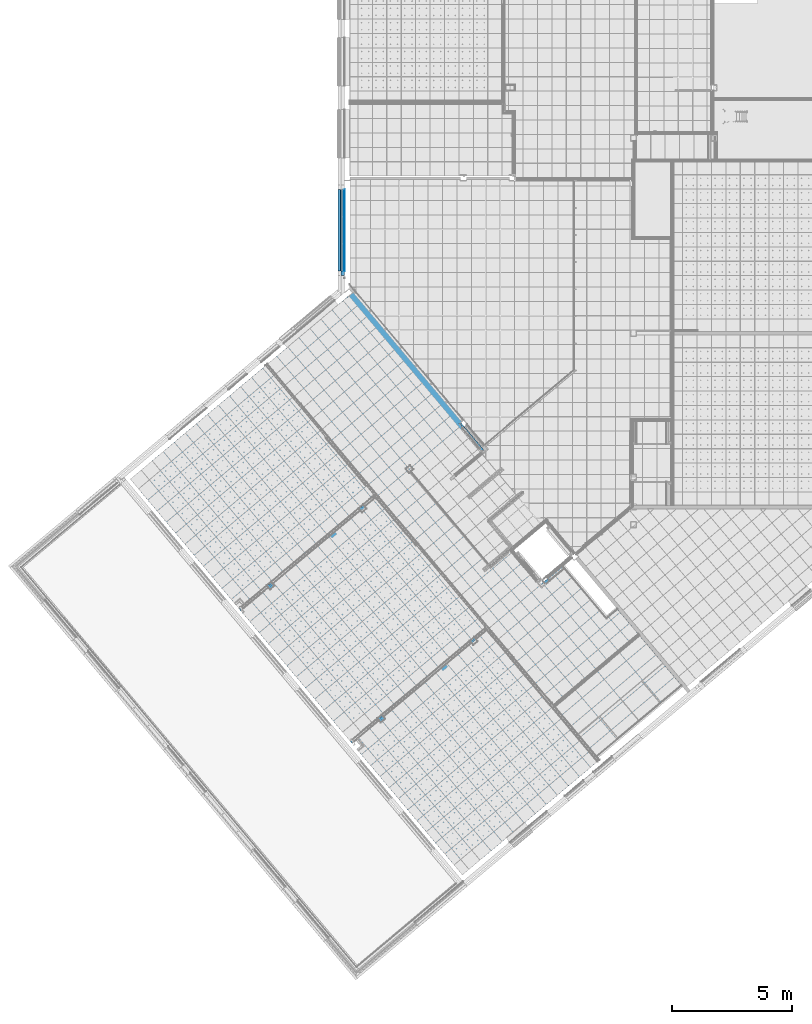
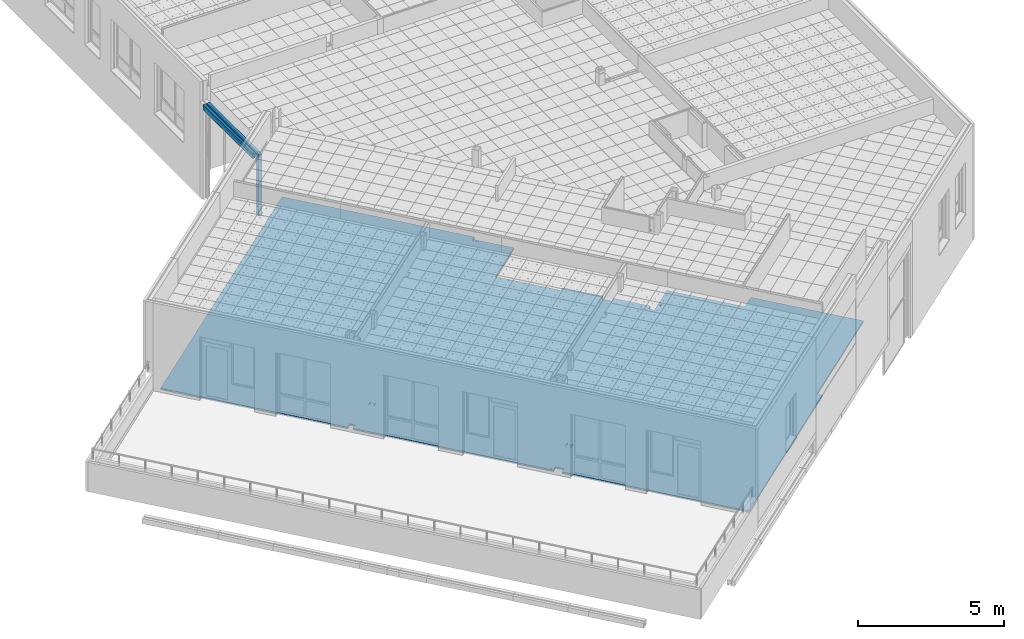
# One storey, part 58 of 321: 7 building element parts, 3 elements without a shape of their own.
"""IFC2X3 building model written with IfcOpenShell, lengths in millimetres."""

from ifc_helpers import new_model, entity, si_unit, converted_unit, derived_unit, money_unit, direction, frame, origin_with_axes, place, context, subcontext, project, spatial, faceted_brep, material, type_object, element, aggregate, save


model = new_model("IFC2X3")

# Units and contexts
model_context = context("Model", 3, precision=0.01, world=origin_with_axes(), true_north=direction((0.0, 1.0)))
plan_context = context("Plan", 3, precision=0.01, world=origin_with_axes(), true_north=direction((0.0, 1.0)))
body_context = subcontext(model_context, "Body", "Model", "MODEL_VIEW")
ifc_project = project(units=[si_unit("LENGTHUNIT", "METRE", prefix="MILLI"), si_unit("AREAUNIT", "SQUARE_METRE"), si_unit("VOLUMEUNIT", "CUBIC_METRE"), converted_unit("PLANEANGLEUNIT", "DEGREE", entity("IfcPlaneAngleMeasure", 0.0174532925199), si_unit("PLANEANGLEUNIT", "RADIAN"), dimensions=[0, 0, 0, 0, 0, 0, 0]), money_unit("EUR"), converted_unit("TIMEUNIT", "Year", entity("IfcTimeMeasure", 31556926.0), si_unit("TIMEUNIT", "SECOND"), dimensions=[0, 0, 1, 0, 0, 0, 0]), si_unit("MASSUNIT", "GRAM", prefix="KILO"), si_unit("THERMODYNAMICTEMPERATUREUNIT", "DEGREE_CELSIUS"), si_unit("LUMINOUSINTENSITYUNIT", "LUMEN"), si_unit("ENERGYUNIT", "JOULE", prefix="MEGA"), derived_unit("THERMALCONDUCTANCEUNIT", [(si_unit("POWERUNIT", "WATT"), 1), (si_unit("LENGTHUNIT", "METRE"), -1), (si_unit("THERMODYNAMICTEMPERATUREUNIT", "KELVIN"), -1)]), derived_unit("SPECIFICHEATCAPACITYUNIT", [(si_unit("ENERGYUNIT", "JOULE"), 1), (si_unit("MASSUNIT", "GRAM", prefix="KILO"), -1), (si_unit("THERMODYNAMICTEMPERATUREUNIT", "KELVIN"), -1)]), derived_unit("MASSDENSITYUNIT", [(si_unit("MASSUNIT", "GRAM", prefix="KILO"), 1), (si_unit("VOLUMEUNIT", "CUBIC_METRE"), -1)])], contexts=[model_context, plan_context])

# Site, building, storey
site_placement = place(None, origin_with_axes())
site = spatial("IfcSite", under=ifc_project, at=site_placement, Name="Fortuinstraat Woensdrecht", CompositionType="ELEMENT")
building_placement = place(site_placement, origin_with_axes())
building = spatial("IfcBuilding", under=site, at=building_placement, Name="IKC Fortuna", CompositionType="ELEMENT")
storey_placement = place(building_placement, frame((0.0, 0.0, 4000.0), z_axis=(0.0, 0.0, 1.0), x_axis=(1.0, 0.0, 0.0)))
storey = spatial("IfcBuildingStorey", under=building, at=storey_placement, Name="01 eerste verdieping", CompositionType="ELEMENT", Elevation=4000.0)

# Covering, building element part
covering_type_1 = type_object("IfcCoveringType", Name="43 Vloerafwerking 90", PredefinedType="FLOORING")
covering_1_placement = place(storey_placement, frame((14022.1121307, 11486.5919573, 1450.0), z_axis=(0.0, 0.0, 1.0), x_axis=(1.0, 0.0, 0.0)))
covering_1 = element("IfcCovering", 1, at=covering_1_placement, inside=storey, type_object=covering_type_1, Name="43_Vloerafwerking_Vloerafwerking", PredefinedType="FLOORING")
ifc_material_1 = material(Name="Cement")
building_element_part_1_placement = place(covering_1_placement, origin_with_axes())
building_element_part_1 = element("IfcBuildingElementPart", 2, at=building_element_part_1_placement, material=ifc_material_1, Name="Cement", context=body_context, shape_type="Brep", body=[
    faceted_brep([(4366.97959641, -5546.62286477, 0.0), (4487.82366703, -5690.63922008, 0.0), (4541.44672741, -5645.64412989, 0.0), (4420.60265679, -5501.62777458, 0.0), (4487.82366703, -5690.63922008, -70.0), (4366.97959641, -5546.62286477, -70.0), (4541.44672741, -5645.64412989, -70.0), (4420.60265679, -5501.62777458, -70.0)], [[[0, 1, 2, 3]], [[4, 1, 0, 5]], [[1, 4, 6, 2]], [[2, 6, 7, 3]], [[5, 0, 3, 7]], [[4, 5, 7, 6]]]),
    faceted_brep([(4556.55223624, -5663.64617431, -70.0), (4556.55223624, -5663.64617431, 0.0), (5364.97444088, -6627.08624103, 0.0), (5364.97444088, -6627.08624103, -70.0), (4493.35362032, -5716.67610961, 0.0), (4493.35362032, -5716.67610961, -70.0), (4342.29853204, -5536.65566548, 0.0), (4520.4038651, -5387.2075462, 0.0), (0.0, 0.0, 0.0), (-115.133644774, -96.6085988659, 0.0), (-111.204100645, -101.291647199, 0.0), (-119.630589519, -108.362310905, 0.0), (-123.560133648, -103.679262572, 0.0), (-267.576488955, -224.523333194, 0.0), (-263.646944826, -229.206381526, 0.0), (-272.0734337, -236.277045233, 0.0), (-276.002977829, -231.5939969, 0.0), (-9345.74225672, -7842.00888069, 0.0), (-4952.60954381, -13077.540574, 0.0), (-4788.67602772, -12939.9840212, 0.0), (-4661.40462621, -13091.6601711, 0.0), (-4825.33814229, -13229.216724, 0.0), (-4817.3035465, -13238.7919824, 0.0), (-4763.68043546, -13193.7968497, 0.0), (-4756.60977175, -13202.2233386, 0.0), (-4810.2328828, -13247.2184713, 0.0), (-4689.38881217, -13391.2348266, 0.0), (-4635.76570113, -13346.2396939, 0.0), (-4628.69503743, -13354.6661828, 0.0), (-4682.31814847, -13399.6613155, 0.0), (-189.035928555, -18754.5465436, 0.0), (-135.412817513, -18709.5514109, 0.0), (-128.342153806, -18717.9778998, 0.0), (-181.965264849, -18762.9730325, 0.0), (-116.918901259, -18840.49227, 0.0), (47.0158051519, -18702.9347183, 0.0), (244.352145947, -18938.1110114, 0.0), (80.4174395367, -19075.6685631, 0.0), (4474.19135154, -24311.9644077, 0.0), (10139.0867266, -19558.5527879, 0.0), (10010.5292046, -19405.3438993, 0.0), (13576.4751294, -16413.159989, 0.0), (10929.79712, -13258.9720167, 0.0), (10470.1704573, -13644.6445863, 0.0), (8638.22574419, -11461.41793, 0.0), (7952.45977333, -12036.8439131, 0.0), (8012.75382194, -12108.6995621, 0.0), (8020.38625934, -12114.0438523, 0.0), (8029.66828911, -12114.8559247, 0.0), (8038.11279889, -12110.9181851, 0.0), (8105.90773211, -12054.0314816, 0.0), (8112.97839581, -12062.4579705, 0.0), (7944.44861833, -12203.8712446, 0.0), (7937.37795462, -12195.4447558, 0.0), (8005.17288784, -12138.5580523, 0.0), (8010.51717804, -12130.9256149, 0.0), (8011.32925042, -12121.6435851, 0.0), (8007.39151084, -12113.1990754, 0.0), (7947.09746227, -12041.3434264, 0.0), (7680.670161, -12264.9024804, 0.0), (7551.79127751, -12111.3105558, 0.0), (7689.67361911, -11995.613522, 0.0), (6814.19684189, -10952.2610348, 0.0), (6676.31450029, -11067.9580686, 0.0), (6435.16219235, -10780.563206, 0.0), (6573.04418232, -10664.8664863, 0.0), (5627.00280012, -9537.41827036, 0.0), (5496.77526721, -9646.6921452, 0.0), (4019.73144893, -7886.41986835, 0.0), (4012.07671006, -7892.84295692, 0.0), (3947.79794909, -7816.23851261, 0.0), (3955.45268797, -7809.81542404, 0.0), (403.582429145, -9119.43715145, 0.0), (471.377362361, -9062.55044799, 0.0), (478.448026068, -9070.97693687, 0.0), (309.918248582, -9212.390211, 0.0), (302.847584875, -9203.96372213, 0.0), (370.642518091, -9147.07701867, 0.0), (375.986808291, -9139.44458127, 0.0), (376.798880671, -9130.16255149, 0.0), (372.861141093, -9121.71804172, 0.0), (275.15742442, -9005.27928636, 0.0), (267.524987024, -8999.93499616, 0.0), (258.242957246, -8999.12292378, 0.0), (249.79844747, -9003.06066336, 0.0), (182.003514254, -9059.94736682, 0.0), (174.932850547, -9051.52087794, 0.0), (343.462628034, -8910.10760381, 0.0), (350.53329174, -8918.53409269, 0.0), (282.738358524, -8975.42079615, 0.0), (277.394068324, -8983.05323354, 0.0), (276.581995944, -8992.33526332, 0.0), (280.519735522, -9000.7797731, 0.0), (378.223452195, -9117.21852845, 0.0), (385.855889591, -9122.56281865, 0.0), (395.137919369, -9123.37489103, 0.0), (-3426.9855386, -12333.6653204, 0.0), (-3359.19060538, -12276.7786169, 0.0), (-3352.11994168, -12285.2051058, 0.0), (-3520.64971916, -12426.6183799, 0.0), (-3527.72038287, -12418.1918911, 0.0), (-3459.92544965, -12361.3051876, 0.0), (-3454.58115945, -12353.6727502, 0.0), (-3453.76908707, -12344.3907204, 0.0), (-3457.70682665, -12335.9462107, 0.0), (-3555.41054332, -12219.5074553, 0.0), (-3563.04298072, -12214.1631651, 0.0), (-3572.3250105, -12213.3510927, 0.0), (-3580.76952027, -12217.2888323, 0.0), (-3648.56445349, -12274.1755358, 0.0), (-3655.6351172, -12265.7490469, 0.0), (-3487.10533971, -12124.3357727, 0.0), (-3480.034676, -12132.7622616, 0.0), (-3547.82960922, -12189.6489651, 0.0), (-3553.17389942, -12197.2814025, 0.0), (-3553.9859718, -12206.5634323, 0.0), (-3550.04823222, -12215.007942, 0.0), (-3452.34451555, -12331.4466974, 0.0), (-3444.71207815, -12336.7909876, 0.0), (-3435.43004837, -12337.60306, 0.0), (5030.48470023, -14634.6178134, 0.0), (5098.27963345, -14577.7311099, 0.0), (5105.35029715, -14586.1575988, 0.0), (4936.82051967, -14727.5708729, 0.0), (4929.74985596, -14719.1443841, 0.0), (4997.54478918, -14662.2576806, 0.0), (5002.88907938, -14654.6252432, 0.0), (5003.70115176, -14645.3432134, 0.0), (4999.76341218, -14636.8987037, 0.0), (4902.05969551, -14520.4599483, 0.0), (4894.42725811, -14515.1156581, 0.0), (4885.14522833, -14514.3035857, 0.0), (4876.70071856, -14518.2413253, 0.0), (4808.90578534, -14575.1280288, 0.0), (4801.83512163, -14566.7015399, 0.0), (4970.36489912, -14425.2882658, 0.0), (4977.43556283, -14433.7147546, 0.0), (4909.64062961, -14490.6014581, 0.0), (4904.29633941, -14498.2338955, 0.0), (4903.48426703, -14507.5159253, 0.0), (4907.42200661, -14515.960435, 0.0), (5005.12572328, -14632.3991904, 0.0), (5012.75816068, -14637.7434806, 0.0), (5022.04019045, -14638.555553, 0.0), (1182.01503298, -17863.8672918, 0.0), (1249.80996619, -17806.9805883, 0.0), (1256.8806299, -17815.4070772, 0.0), (1088.35085241, -17956.8203513, 0.0), (1081.28018871, -17948.3938625, 0.0), (1149.07512192, -17891.507159, 0.0), (1154.41941212, -17883.8747216, 0.0), (1155.2314845, -17874.5926918, 0.0), (1151.29374492, -17866.1481821, 0.0), (1053.59002825, -17749.7094267, 0.0), (1045.95759086, -17744.3651365, 0.0), (1036.67556108, -17743.5530641, 0.0), (1028.2310513, -17747.4908037, 0.0), (960.436118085, -17804.3775072, 0.0), (953.365454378, -17795.9510183, 0.0), (1121.89523186, -17654.5377442, 0.0), (1128.96589557, -17662.964233, 0.0), (1061.17096236, -17719.8509365, 0.0), (1055.82667216, -17727.4833739, 0.0), (1055.01459978, -17736.7654037, 0.0), (1058.95233935, -17745.2099134, 0.0), (1156.65605603, -17861.6486688, 0.0), (1164.28849342, -17866.992959, 0.0), (1173.5705232, -17867.8050314, 0.0), (3955.45268797, -7809.81542404, -70.0), (3947.79794909, -7816.23851261, -70.0), (4012.07671006, -7892.84295692, -70.0), (4019.73144893, -7886.41986835, -70.0), (5496.77526721, -9646.6921452, -70.0), (5627.00280012, -9537.41827036, -70.0), (6573.04418232, -10664.8664863, -70.0), (6435.16219235, -10780.563206, -70.0), (6676.31450029, -11067.9580686, -70.0), (6814.19684189, -10952.2610348, -70.0), (7689.67361911, -11995.613522, -70.0), (7551.79127751, -12111.3105558, -70.0), (7680.670161, -12264.9024804, -70.0), (7947.09746227, -12041.3434264, -70.0), (8007.39151084, -12113.1990754, -70.0), (8011.32925042, -12121.6435851, -70.0), (8010.51717804, -12130.9256149, -70.0), (8005.17288784, -12138.5580523, -70.0), (7937.37795462, -12195.4447558, -70.0), (7944.44861833, -12203.8712446, -70.0), (8112.97839581, -12062.4579705, -70.0), (8105.90773211, -12054.0314816, -70.0), (8038.11279889, -12110.9181851, -70.0), (8029.66828911, -12114.8559247, -70.0), (8020.38625934, -12114.0438523, -70.0), (8012.75382194, -12108.6995621, -70.0), (7952.45977333, -12036.8439131, -70.0), (8638.22574419, -11461.41793, -70.0), (10470.1704573, -13644.6445863, -70.0), (10929.79712, -13258.9720167, -70.0), (13576.4751294, -16413.159989, -70.0), (10010.5292046, -19405.3438993, -70.0), (10139.0867266, -19558.5527879, -70.0), (4474.19135154, -24311.9644077, -70.0), (80.4174395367, -19075.6685631, -70.0), (244.352145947, -18938.1110114, -70.0), (47.0158051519, -18702.9347183, -70.0), (-116.918901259, -18840.49227, -70.0), (-181.965264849, -18762.9730325, -70.0), (-128.342153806, -18717.9778998, -70.0), (-135.412817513, -18709.5514109, -70.0), (-189.035928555, -18754.5465436, -70.0), (-4682.31814847, -13399.6613155, -70.0), (-4628.69503743, -13354.6661828, -70.0), (-4635.76570113, -13346.2396939, -70.0), (-4689.38881217, -13391.2348266, -70.0), (-4810.2328828, -13247.2184713, -70.0), (-4756.60977175, -13202.2233386, -70.0), (-4763.68043546, -13193.7968497, -70.0), (-4817.3035465, -13238.7919824, -70.0), (-4825.33814229, -13229.216724, -70.0), (-4661.40462621, -13091.6601711, -70.0), (-4788.67602772, -12939.9840212, -70.0), (-4952.60954381, -13077.540574, -70.0), (-9345.74225672, -7842.00888069, -70.0), (-276.002977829, -231.5939969, -70.0), (-272.0734337, -236.277045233, -70.0), (-263.646944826, -229.206381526, -70.0), (-267.576488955, -224.523333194, -70.0), (-123.560133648, -103.679262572, -70.0), (-119.630589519, -108.362310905, -70.0), (-111.204100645, -101.291647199, -70.0), (-115.133644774, -96.6085988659, -70.0), (0.0, 0.0, -70.0), (4520.4038651, -5387.2075462, -70.0), (4342.29853204, -5536.65566548, -70.0), (302.847584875, -9203.96372213, -70.0), (309.918248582, -9212.390211, -70.0), (478.448026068, -9070.97693687, -70.0), (471.377362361, -9062.55044799, -70.0), (403.582429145, -9119.43715145, -70.0), (395.137919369, -9123.37489103, -70.0), (385.855889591, -9122.56281865, -70.0), (378.223452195, -9117.21852845, -70.0), (280.519735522, -9000.7797731, -70.0), (276.581995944, -8992.33526332, -70.0), (277.394068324, -8983.05323354, -70.0), (282.738358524, -8975.42079615, -70.0), (350.53329174, -8918.53409269, -70.0), (343.462628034, -8910.10760381, -70.0), (174.932850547, -9051.52087794, -70.0), (182.003514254, -9059.94736682, -70.0), (249.79844747, -9003.06066336, -70.0), (258.242957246, -8999.12292378, -70.0), (267.524987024, -8999.93499616, -70.0), (275.15742442, -9005.27928636, -70.0), (372.861141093, -9121.71804172, -70.0), (376.798880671, -9130.16255149, -70.0), (375.986808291, -9139.44458127, -70.0), (370.642518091, -9147.07701867, -70.0), (-3527.72038287, -12418.1918911, -70.0), (-3520.64971916, -12426.6183799, -70.0), (-3352.11994168, -12285.2051058, -70.0), (-3359.19060538, -12276.7786169, -70.0), (-3426.9855386, -12333.6653204, -70.0), (-3435.43004837, -12337.60306, -70.0), (-3444.71207815, -12336.7909876, -70.0), (-3452.34451555, -12331.4466974, -70.0), (-3550.04823222, -12215.007942, -70.0), (-3553.9859718, -12206.5634323, -70.0), (-3553.17389942, -12197.2814025, -70.0), (-3547.82960922, -12189.6489651, -70.0), (-3480.034676, -12132.7622616, -70.0), (-3487.10533971, -12124.3357727, -70.0), (-3655.6351172, -12265.7490469, -70.0), (-3648.56445349, -12274.1755358, -70.0), (-3580.76952027, -12217.2888323, -70.0), (-3572.3250105, -12213.3510927, -70.0), (-3563.04298072, -12214.1631651, -70.0), (-3555.41054332, -12219.5074553, -70.0), (-3457.70682665, -12335.9462107, -70.0), (-3453.76908707, -12344.3907204, -70.0), (-3454.58115945, -12353.6727502, -70.0), (-3459.92544965, -12361.3051876, -70.0), (4929.74985596, -14719.1443841, -70.0), (4936.82051967, -14727.5708729, -70.0), (5105.35029715, -14586.1575988, -70.0), (5098.27963345, -14577.7311099, -70.0), (5030.48470023, -14634.6178134, -70.0), (5022.04019045, -14638.555553, -70.0), (5012.75816068, -14637.7434806, -70.0), (5005.12572328, -14632.3991904, -70.0), (4907.42200661, -14515.960435, -70.0), (4903.48426703, -14507.5159253, -70.0), (4904.29633941, -14498.2338955, -70.0), (4909.64062961, -14490.6014581, -70.0), (4977.43556283, -14433.7147546, -70.0), (4970.36489912, -14425.2882658, -70.0), (4801.83512163, -14566.7015399, -70.0), (4808.90578534, -14575.1280288, -70.0), (4876.70071856, -14518.2413253, -70.0), (4885.14522833, -14514.3035857, -70.0), (4894.42725811, -14515.1156581, -70.0), (4902.05969551, -14520.4599483, -70.0), (4999.76341218, -14636.8987037, -70.0), (5003.70115176, -14645.3432134, -70.0), (5002.88907938, -14654.6252432, -70.0), (4997.54478918, -14662.2576806, -70.0), (1081.28018871, -17948.3938625, -70.0), (1088.35085241, -17956.8203513, -70.0), (1256.8806299, -17815.4070772, -70.0), (1249.80996619, -17806.9805883, -70.0), (1182.01503298, -17863.8672918, -70.0), (1173.5705232, -17867.8050314, -70.0), (1164.28849342, -17866.992959, -70.0), (1156.65605603, -17861.6486688, -70.0), (1058.95233935, -17745.2099134, -70.0), (1055.01459978, -17736.7654037, -70.0), (1055.82667216, -17727.4833739, -70.0), (1061.17096236, -17719.8509365, -70.0), (1128.96589557, -17662.964233, -70.0), (1121.89523186, -17654.5377442, -70.0), (953.365454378, -17795.9510183, -70.0), (960.436118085, -17804.3775072, -70.0), (1028.2310513, -17747.4908037, -70.0), (1036.67556108, -17743.5530641, -70.0), (1045.95759086, -17744.3651365, -70.0), (1053.59002825, -17749.7094267, -70.0), (1151.29374492, -17866.1481821, -70.0), (1155.2314845, -17874.5926918, -70.0), (1154.41941212, -17883.8747216, -70.0), (1149.07512192, -17891.507159, -70.0)], [[[0, 1, 2, 3]], [[4, 1, 0, 5]], [[6, 7, 8, 9, 10, 11, 12, 13, 14, 15, 16, 17, 18, 19, 20, 21, 22, 23, 24, 25, 26, 27, 28, 29, 30, 31, 32, 33, 34, 35, 36, 37, 38, 39, 40, 41, 42, 43, 44, 45, 46, 47, 48, 49, 50, 51, 52, 53, 54, 55, 56, 57, 58, 59, 60, 61, 62, 63, 64, 65, 66, 67, 68, 69, 70, 71, 2, 1, 4], [72, 73, 74, 75, 76, 77, 78, 79, 80, 81, 82, 83, 84, 85, 86, 87, 88, 89, 90, 91, 92, 93, 94, 95], [96, 97, 98, 99, 100, 101, 102, 103, 104, 105, 106, 107, 108, 109, 110, 111, 112, 113, 114, 115, 116, 117, 118, 119], [120, 121, 122, 123, 124, 125, 126, 127, 128, 129, 130, 131, 132, 133, 134, 135, 136, 137, 138, 139, 140, 141, 142, 143], [144, 145, 146, 147, 148, 149, 150, 151, 152, 153, 154, 155, 156, 157, 158, 159, 160, 161, 162, 163, 164, 165, 166, 167]], [[2, 71, 168, 3]], [[5, 0, 3, 168, 169, 170, 171, 172, 173, 174, 175, 176, 177, 178, 179, 180, 181, 182, 183, 184, 185, 186, 187, 188, 189, 190, 191, 192, 193, 194, 195, 196, 197, 198, 199, 200, 201, 202, 203, 204, 205, 206, 207, 208, 209, 210, 211, 212, 213, 214, 215, 216, 217, 218, 219, 220, 221, 222, 223, 224, 225, 226, 227, 228, 229, 230, 231, 232, 233], [234, 235, 236, 237, 238, 239, 240, 241, 242, 243, 244, 245, 246, 247, 248, 249, 250, 251, 252, 253, 254, 255, 256, 257], [258, 259, 260, 261, 262, 263, 264, 265, 266, 267, 268, 269, 270, 271, 272, 273, 274, 275, 276, 277, 278, 279, 280, 281], [282, 283, 284, 285, 286, 287, 288, 289, 290, 291, 292, 293, 294, 295, 296, 297, 298, 299, 300, 301, 302, 303, 304, 305], [306, 307, 308, 309, 310, 311, 312, 313, 314, 315, 316, 317, 318, 319, 320, 321, 322, 323, 324, 325, 326, 327, 328, 329]], [[6, 4, 5, 233]], [[232, 7, 6, 233]], [[7, 232, 231, 8]], [[230, 9, 8, 231]], [[10, 9, 230, 229]], [[11, 10, 229, 228]], [[12, 11, 228, 227]], [[12, 227, 226, 13]], [[14, 13, 226, 225]], [[15, 14, 225, 224]], [[16, 15, 224, 223]], [[16, 223, 222, 17]], [[221, 18, 17, 222]], [[220, 19, 18, 221]], [[219, 20, 19, 220]], [[218, 21, 20, 219]], [[217, 22, 21, 218]], [[23, 22, 217, 216]], [[24, 23, 216, 215]], [[25, 24, 215, 214]], [[213, 26, 25, 214]], [[27, 26, 213, 212]], [[28, 27, 212, 211]], [[29, 28, 211, 210]], [[209, 30, 29, 210]], [[31, 30, 209, 208]], [[32, 31, 208, 207]], [[33, 32, 207, 206]], [[33, 206, 205, 34]], [[204, 35, 34, 205]], [[203, 36, 35, 204]], [[202, 37, 36, 203]], [[201, 38, 37, 202]], [[200, 39, 38, 201]], [[199, 40, 39, 200]], [[198, 41, 40, 199]], [[197, 42, 41, 198]], [[196, 43, 42, 197]], [[195, 44, 43, 196]], [[194, 45, 44, 195]], [[46, 45, 194, 193]], [[47, 46, 193, 192]], [[48, 47, 192, 191]], [[49, 48, 191, 190]], [[50, 49, 190, 189]], [[51, 50, 189, 188]], [[52, 51, 188, 187]], [[53, 52, 187, 186]], [[54, 53, 186, 185]], [[55, 54, 185, 184]], [[56, 55, 184, 183]], [[57, 56, 183, 182]], [[58, 57, 182, 181]], [[58, 181, 180, 59]], [[179, 60, 59, 180]], [[178, 61, 60, 179]], [[177, 62, 61, 178]], [[176, 63, 62, 177]], [[175, 64, 63, 176]], [[174, 65, 64, 175]], [[173, 66, 65, 174]], [[172, 67, 66, 173]], [[172, 171, 68, 67]], [[170, 69, 68, 171]], [[169, 70, 69, 170]], [[169, 168, 71, 70]], [[73, 72, 238, 237]], [[74, 73, 237, 236]], [[75, 74, 236, 235]], [[76, 75, 235, 234]], [[77, 76, 234, 257]], [[78, 77, 257, 256]], [[79, 78, 256, 255]], [[80, 79, 255, 254]], [[81, 80, 254, 253]], [[82, 81, 253, 252]], [[83, 82, 252, 251]], [[84, 83, 251, 250]], [[85, 84, 250, 249]], [[86, 85, 249, 248]], [[87, 86, 248, 247]], [[88, 87, 247, 246]], [[89, 88, 246, 245]], [[90, 89, 245, 244]], [[91, 90, 244, 243]], [[92, 91, 243, 242]], [[93, 92, 242, 241]], [[94, 93, 241, 240]], [[95, 94, 240, 239]], [[72, 95, 239, 238]], [[97, 96, 262, 261]], [[98, 97, 261, 260]], [[99, 98, 260, 259]], [[100, 99, 259, 258]], [[101, 100, 258, 281]], [[102, 101, 281, 280]], [[103, 102, 280, 279]], [[104, 103, 279, 278]], [[105, 104, 278, 277]], [[106, 105, 277, 276]], [[107, 106, 276, 275]], [[108, 107, 275, 274]], [[109, 108, 274, 273]], [[110, 109, 273, 272]], [[111, 110, 272, 271]], [[112, 111, 271, 270]], [[113, 112, 270, 269]], [[114, 113, 269, 268]], [[115, 114, 268, 267]], [[116, 115, 267, 266]], [[117, 116, 266, 265]], [[118, 117, 265, 264]], [[119, 118, 264, 263]], [[96, 119, 263, 262]], [[121, 120, 286, 285]], [[122, 121, 285, 284]], [[123, 122, 284, 283]], [[124, 123, 283, 282]], [[125, 124, 282, 305]], [[126, 125, 305, 304]], [[127, 126, 304, 303]], [[128, 127, 303, 302]], [[129, 128, 302, 301]], [[130, 129, 301, 300]], [[131, 130, 300, 299]], [[132, 131, 299, 298]], [[133, 132, 298, 297]], [[134, 133, 297, 296]], [[135, 134, 296, 295]], [[136, 135, 295, 294]], [[137, 136, 294, 293]], [[138, 137, 293, 292]], [[139, 138, 292, 291]], [[140, 139, 291, 290]], [[141, 140, 290, 289]], [[142, 141, 289, 288]], [[143, 142, 288, 287]], [[120, 143, 287, 286]], [[145, 144, 310, 309]], [[146, 145, 309, 308]], [[147, 146, 308, 307]], [[148, 147, 307, 306]], [[149, 148, 306, 329]], [[150, 149, 329, 328]], [[151, 150, 328, 327]], [[152, 151, 327, 326]], [[153, 152, 326, 325]], [[154, 153, 325, 324]], [[155, 154, 324, 323]], [[156, 155, 323, 322]], [[157, 156, 322, 321]], [[158, 157, 321, 320]], [[159, 158, 320, 319]], [[160, 159, 319, 318]], [[161, 160, 318, 317]], [[162, 161, 317, 316]], [[163, 162, 316, 315]], [[164, 163, 315, 314]], [[165, 164, 314, 313]], [[166, 165, 313, 312]], [[167, 166, 312, 311]], [[144, 167, 311, 310]]]),
])
aggregate(covering_1, [building_element_part_1])

# Covering, building element parts
covering_type_2 = type_object("IfcCoveringType", Name="41 Latei MW rollaag vlies 280 x 224", PredefinedType="NOTDEFINED")
covering_2_placement = place(storey_placement, frame((13455.4349765, 12302.41408, 2800.0), z_axis=(0.0, 0.0, 1.0), x_axis=(0.0, 1.0, 0.0)))
covering_2 = element("IfcCovering", 3, at=covering_2_placement, inside=storey, type_object=covering_type_2, Name="41_Afwerking_Latei + rollaag", PredefinedType="NOTDEFINED")
ifc_material_2 = material(Name="Metaal - Staal C")
building_element_part_2_placement = place(covering_2_placement, origin_with_axes())
building_element_part_2 = element("IfcBuildingElementPart", 4, at=building_element_part_2_placement, material=ifc_material_2, Name="Metaal - Staal C", context=body_context, shape_type="Brep", body=[
    faceted_brep([(3399.86273588, 40.0, 0.0), (3399.86273588, 32.0, 0.0), (3399.86273588, 33.1715728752, -2.82842712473), (3399.86273588, 36.0, -4.0), (3399.86273588, 115.215535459, -4.0), (3399.86273588, 135.215535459, -8.0), (3399.86273588, 136.0, -4.07767729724), (3399.86273588, 115.609685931, 0.0), (0.0, 32.0, 0.0), (0.0, 115.609685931, 0.0), (0.0, 40.0, 0.0), (0.0, 33.1715728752, -2.82842712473), (0.0, 36.0, -4.0), (0.0, 115.215535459, -4.0), (0.0, 135.215535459, -8.0), (0.0, 136.0, -4.07767729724)], [[[0, 1, 2, 3, 4, 5, 6, 7]], [[8, 1, 0, 7, 9, 10]], [[1, 8, 11, 2]], [[12, 3, 2, 11]], [[13, 4, 3, 12]], [[14, 5, 4, 13]], [[15, 6, 5, 14]], [[9, 7, 6, 15]], [[8, 10, 9, 15, 14, 13, 12, 11]]]),
    faceted_brep([(0.0, 32.0, 17.1715729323), (3399.86273588, 32.0, 17.1715729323), (3399.86273588, 32.0, 105.0), (0.0, 32.0, 105.0), (3399.86273588, 33.5147186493, 13.5147186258), (0.0, 33.5147186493, 13.5147186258), (3399.86273588, 30.0000000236, 112.580611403), (3399.86273588, 30.0000000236, 106.999999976), (3399.86273588, 36.0000000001, 12.485281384), (3399.86273588, 36.0000000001, 106.530733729), (0.0, 30.0000000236, 106.999999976), (0.0, 30.0000000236, 112.580611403), (0.0, 36.0000000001, 106.530733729), (0.0, 36.0000000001, 12.485281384)], [[[0, 1, 2, 3]], [[4, 1, 0, 5]], [[6, 7, 2, 1, 4, 8, 9]], [[7, 10, 3, 2]], [[10, 11, 12, 13, 5, 0, 3]], [[8, 4, 5, 13]], [[7, 6, 11, 10]], [[8, 13, 12, 9]], [[11, 6, 9, 12]]]),
    faceted_brep([(3399.86273588, 20.0000000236, 116.999999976), (3399.86273588, 20.0000000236, 121.000000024), (3399.86273588, 18.0000000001, 119.0), (0.0, 20.0000000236, 121.000000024), (0.0, 20.0000000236, 116.999999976), (0.0, 18.0000000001, 119.0)], [[[0, 1, 2]], [[3, 1, 0, 4]], [[1, 3, 5, 2]], [[4, 0, 2, 5]], [[3, 4, 5]]]),
])
ifc_material_3 = material(Name="Steen - Baksteen Accent Rollaag")
building_element_part_3_placement = place(covering_2_placement, origin_with_axes())
building_element_part_3 = element("IfcBuildingElementPart", 5, at=building_element_part_3_placement, material=ifc_material_3, Name="Steen - Baksteen Accent Rollaag", context=body_context, shape_type="Brep", body=[
    faceted_brep([(0.0, 40.0, 10.8284271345), (3399.86273588, 40.0, 10.8284271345), (3399.86273588, 40.0, 210.0), (0.0, 40.0, 210.0), (3399.86273588, 42.0000000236, 10.0), (0.0, 42.0000000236, 10.0), (3399.86273588, 120.000000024, 4.0), (3399.86273588, 120.000000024, 0.0), (3399.86273588, 140.0, 0.0), (3399.86273588, 140.0, 210.0), (3399.86273588, 114.000000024, 10.0), (3399.86273588, 118.242640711, 8.24264068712), (0.0, 140.0, 210.0), (0.0, 140.0, 0.0), (0.0, 120.000000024, 0.0), (0.0, 120.000000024, 4.0), (0.0, 118.242640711, 8.24264068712), (0.0, 114.000000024, 10.0)], [[[0, 1, 2, 3]], [[4, 1, 0, 5]], [[6, 7, 8, 9, 2, 1, 4, 10, 11]], [[3, 2, 9, 12]], [[5, 0, 3, 12, 13, 14, 15, 16, 17]], [[10, 4, 5, 17]], [[7, 6, 15, 14]], [[7, 14, 13, 8]], [[12, 9, 8, 13]], [[11, 10, 17, 16]], [[6, 11, 16, 15]]]),
])
ifc_material_4 = material(Name="ALG - ISOLATIE")
building_element_part_4_placement = place(covering_2_placement, origin_with_axes())
building_element_part_4 = element("IfcBuildingElementPart", 6, at=building_element_part_4_placement, material=ifc_material_4, Name="ALG - ISOLATIE", context=body_context, shape_type="Brep", body=[
    faceted_brep([(3399.86273588, -140.0, 95.0), (3399.86273588, -140.0, 210.0), (0.0, -140.0, 210.0), (0.0, -140.0, 95.0), (3399.86273588, -130.999998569, 95.0000001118), (3399.86273588, -98.0, 95.0), (3399.86273588, -98.0000014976, 74.9999992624), (3399.86273588, -98.0, 0.0), (3399.86273588, 0.0, 0.0), (3399.86273588, 0.0, 210.0), (0.0, 0.0, 210.0), (0.0, 0.0, 0.0), (0.0, -98.0, 0.0), (0.0, -98.0000014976, 74.9999992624), (0.0, -98.0, 95.0), (0.0, -130.999998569, 95.0000001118)], [[[0, 1, 2, 3]], [[0, 4, 5, 6, 7, 8, 9, 1]], [[1, 9, 10, 2]], [[3, 2, 10, 11, 12, 13, 14, 15]], [[4, 0, 3, 15]], [[5, 4, 15, 14]], [[6, 5, 14, 13]], [[7, 6, 13, 12]], [[8, 7, 12, 11]], [[9, 8, 11, 10]]]),
])
ifc_material_5 = material(Name="Hout AFW")
building_element_part_5_placement = place(covering_2_placement, origin_with_axes())
building_element_part_5 = element("IfcBuildingElementPart", 7, at=building_element_part_5_placement, material=ifc_material_5, Name="Hout AFW", context=body_context, shape_type="Brep", body=[
    faceted_brep([(3399.86273588, -130.999998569, 95.0000001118), (3399.86273588, -98.0000014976, 74.9999992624), (0.0, -98.0000014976, 74.9999992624), (0.0, -130.999998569, 95.0000001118), (3399.86273588, -131.000000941, 9.99999894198), (3399.86273588, -130.999998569, -13.5), (3399.86273588, -98.0000014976, -13.5), (3399.86273588, -98.0000014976, 1.07288400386e-06), (0.0, -98.0000014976, 1.07288400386e-06), (0.0, -98.0000014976, -13.5), (0.0, -130.999998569, -13.5), (0.0, -131.000000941, 9.99999894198)], [[[0, 1, 2, 3]], [[0, 4, 5, 6, 7, 1]], [[1, 7, 8, 2]], [[3, 2, 8, 9, 10, 11]], [[4, 0, 3, 11]], [[5, 4, 11, 10]], [[6, 5, 10, 9]], [[7, 6, 9, 8]]]),
])
ifc_material_6 = material(Name="Isolatie - PUR gespoten")
building_element_part_6_placement = place(covering_2_placement, origin_with_axes())
building_element_part_6 = element("IfcBuildingElementPart", 8, at=building_element_part_6_placement, material=ifc_material_6, Name="Isolatie - PUR gespoten", context=body_context, shape_type="Brep", body=[
    faceted_brep([(3399.86273588, -140.000000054, 95.000000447), (3399.86273588, -130.999999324, 95.000000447), (0.0, -130.999999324, 95.000000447), (0.0, -140.000000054, 95.000000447), (3399.86273588, -140.000000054, 9.99999894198), (3399.86273588, -131.000000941, 9.99999894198), (0.0, -131.000000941, 9.99999894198), (0.0, -140.000000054, 9.99999894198)], [[[0, 1, 2, 3]], [[0, 4, 5, 1]], [[1, 5, 6, 2]], [[3, 2, 6, 7]], [[4, 0, 3, 7]], [[5, 4, 7, 6]]]),
])
aggregate(covering_2, [building_element_part_2, building_element_part_3, building_element_part_4, building_element_part_5, building_element_part_6])

# Covering, building element part
covering_type_3 = type_object("IfcCoveringType", Name="21 MW accent rollaag 280", PredefinedType="NOTDEFINED")
covering_3_placement = place(storey_placement, frame((13315.4349765, 12114.91408, 447.5), z_axis=(0.0, 0.0, 1.0), x_axis=(0.0, 1.0, 0.0)))
covering_3 = element("IfcCovering", 9, at=covering_3_placement, inside=storey, type_object=covering_type_3, Name="41_Afwerking_Rollaag", PredefinedType="NOTDEFINED")
building_element_part_7_placement = place(covering_3_placement, origin_with_axes())
building_element_part_7 = element("IfcBuildingElementPart", 10, at=building_element_part_7_placement, material=ifc_material_4, Name="ALG - ISOLATIE", context=body_context, shape_type="Brep", body=[
    faceted_brep([(187.5, -280.0, 2562.5), (187.5, -140.0, 2562.5), (0.0, -140.0, 2562.5), (0.0, -280.0, 2562.5), (187.5, -280.0, 0.0), (187.5, -140.0, 0.0), (0.0, -140.0, 0.0), (0.0, -280.0, 0.0)], [[[0, 1, 2, 3]], [[0, 4, 5, 1]], [[1, 5, 6, 2]], [[3, 2, 6, 7]], [[4, 0, 3, 7]], [[5, 4, 7, 6]]]),
])
aggregate(covering_3, [building_element_part_7])

save(model, "model.ifc")
